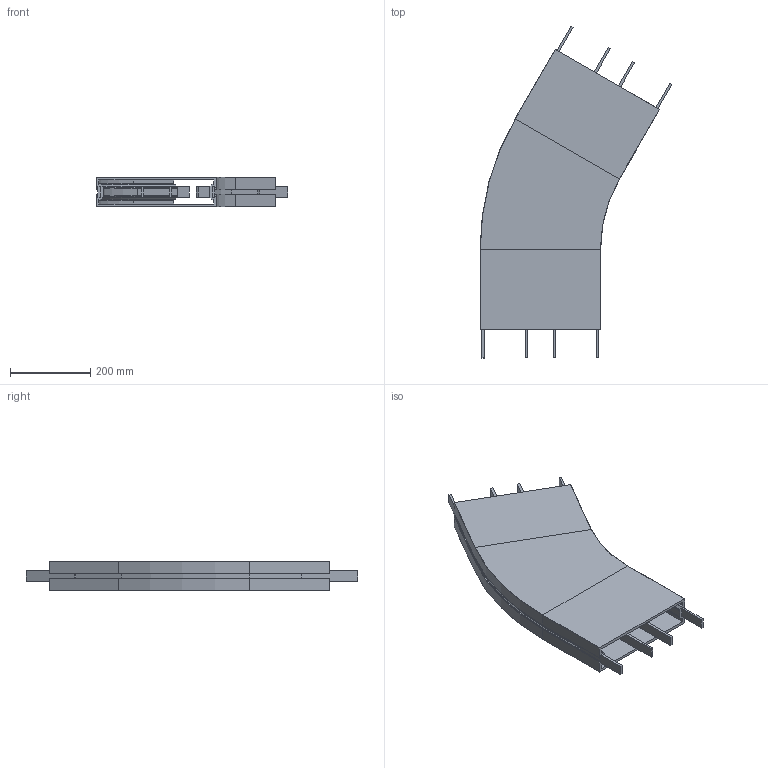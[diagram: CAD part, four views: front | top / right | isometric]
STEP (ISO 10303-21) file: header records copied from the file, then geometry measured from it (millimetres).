
FILE_DESCRIPTION (( 'STEP AP214' ), '1' );
FILE_NAME ('FBBP 30A300R500L200L200.00.step', '2026-05-29T10:20:23', ( '' ), ( '' ), 'SwSTEP 2.0', 'SolidWorks 2024', '' );
FILE_SCHEMA (( 'AUTOMOTIVE_DESIGN' ));
Length unit declared in the file: millimetre
Products named in the file (1): FBBP 30A300R500L200L200.00
Bounding box: 477.69 x 826.4 x 74 mm (x, y, z)
Volume: 3740860.6 mm3; surface area: 1103712.6 mm2
Topology: 9 solids, 9 shells, 347 faces, 789 edges, 460 vertices
Faces by surface type: plane 250, cone 66, cylinder 26, torus 5
Entity records: 9477 total; most frequent: DIRECTION 1604, CARTESIAN_POINT 1597, ORIENTED_EDGE 1578, EDGE_CURVE 789, VECTOR 670, LINE 670, AXIS2_PLACEMENT_3D 467, VERTEX_POINT 460
